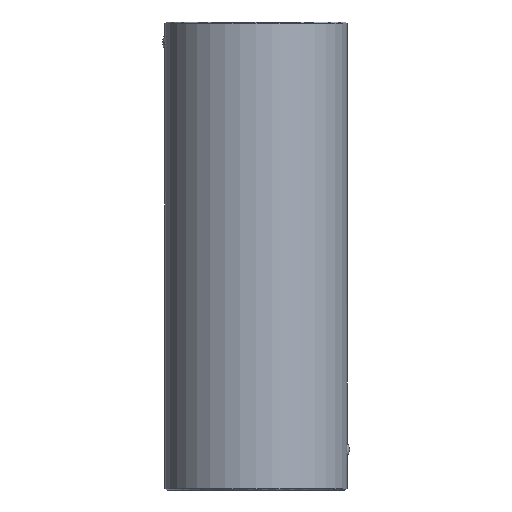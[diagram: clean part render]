
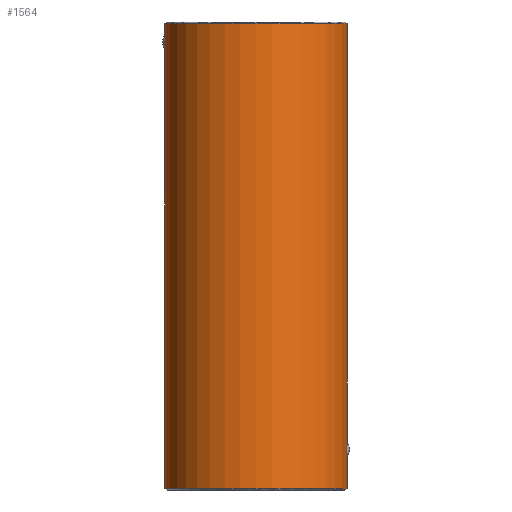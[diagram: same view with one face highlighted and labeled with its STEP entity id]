
A CAD part, front view. The second image highlights one B-rep face of the part: STEP entity #1564.
In plain terms, the highlighted cylindrical face has radius 18.5 mm (diameter 37 mm), a partial arc.
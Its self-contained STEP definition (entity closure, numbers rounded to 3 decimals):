
#1346=CARTESIAN_POINT('Vertex',(-18.5,0.,0.3)) ;
#1353=CARTESIAN_POINT('Vertex',(18.5,0.,0.3)) ;
#1356=CARTESIAN_POINT('Axis2P3D Location',(0.,0.,0.3)) ;
#1474=CARTESIAN_POINT('Axis2P3D Location',(0.,0.,95.)) ;
#1479=CARTESIAN_POINT('Line Origine',(18.5,0.,95.)) ;
#1483=CARTESIAN_POINT('Vertex',(18.5,0.,6.877)) ;
#1487=CARTESIAN_POINT('Control Point',(18.449,-1.379,8.201)) ;
#1488=CARTESIAN_POINT('Control Point',(18.449,-1.379,7.776)) ;
#1489=CARTESIAN_POINT('Control Point',(18.462,-1.201,7.352)) ;
#1490=CARTESIAN_POINT('Control Point',(18.488,-0.85,7.033)) ;
#1491=CARTESIAN_POINT('Control Point',(18.5,-0.425,6.877)) ;
#1492=CARTESIAN_POINT('Control Point',(18.5,0.,6.877)) ;
#1493=CARTESIAN_POINT('Vertex',(18.449,-1.379,8.201)) ;
#1497=CARTESIAN_POINT('Control Point',(18.5,0.,9.523)) ;
#1498=CARTESIAN_POINT('Control Point',(18.5,-0.425,9.523)) ;
#1499=CARTESIAN_POINT('Control Point',(18.488,-0.845,9.368)) ;
#1500=CARTESIAN_POINT('Control Point',(18.462,-1.201,9.052)) ;
#1501=CARTESIAN_POINT('Control Point',(18.449,-1.379,8.625)) ;
#1502=CARTESIAN_POINT('Control Point',(18.449,-1.379,8.201)) ;
#1503=CARTESIAN_POINT('Vertex',(18.5,0.,9.523)) ;
#1506=CARTESIAN_POINT('Line Origine',(18.5,0.,95.)) ;
#1510=CARTESIAN_POINT('Vertex',(18.5,0.,94.7)) ;
#1513=CARTESIAN_POINT('Axis2P3D Location',(0.,0.,94.7)) ;
#1517=CARTESIAN_POINT('Vertex',(-18.5,0.,94.7)) ;
#1520=CARTESIAN_POINT('Line Origine',(-18.5,0.,95.)) ;
#1524=CARTESIAN_POINT('Vertex',(-18.5,0.,92.223)) ;
#1528=CARTESIAN_POINT('Control Point',(-18.449,-1.379,90.899)) ;
#1529=CARTESIAN_POINT('Control Point',(-18.449,-1.379,91.324)) ;
#1530=CARTESIAN_POINT('Control Point',(-18.462,-1.201,91.748)) ;
#1531=CARTESIAN_POINT('Control Point',(-18.488,-0.85,92.067)) ;
#1532=CARTESIAN_POINT('Control Point',(-18.5,-0.425,92.223)) ;
#1533=CARTESIAN_POINT('Control Point',(-18.5,0.,92.223)) ;
#1534=CARTESIAN_POINT('Vertex',(-18.449,-1.379,90.899)) ;
#1538=CARTESIAN_POINT('Control Point',(-18.5,0.,89.577)) ;
#1539=CARTESIAN_POINT('Control Point',(-18.5,-0.425,89.577)) ;
#1540=CARTESIAN_POINT('Control Point',(-18.488,-0.845,89.732)) ;
#1541=CARTESIAN_POINT('Control Point',(-18.462,-1.201,90.048)) ;
#1542=CARTESIAN_POINT('Control Point',(-18.449,-1.379,90.475)) ;
#1543=CARTESIAN_POINT('Control Point',(-18.449,-1.379,90.899)) ;
#1544=CARTESIAN_POINT('Vertex',(-18.5,0.,89.577)) ;
#1547=CARTESIAN_POINT('Line Origine',(-18.5,0.,95.)) ;
#1357=DIRECTION('Axis2P3D Direction',(0.,-0.,1.)) ;
#1475=DIRECTION('Axis2P3D Direction',(0.,0.,-1.)) ;
#1476=DIRECTION('Axis2P3D XDirection',(1.,0.,0.)) ;
#1480=DIRECTION('Vector Direction',(0.,0.,-1.)) ;
#1507=DIRECTION('Vector Direction',(0.,0.,-1.)) ;
#1514=DIRECTION('Axis2P3D Direction',(0.,0.,-1.)) ;
#1521=DIRECTION('Vector Direction',(0.,0.,-1.)) ;
#1548=DIRECTION('Vector Direction',(0.,0.,-1.)) ;
#1358=AXIS2_PLACEMENT_3D('Circle Axis2P3D',#1356,#1357,$) ;
#1477=AXIS2_PLACEMENT_3D('Cylinder Axis2P3D',#1474,#1475,#1476) ;
#1515=AXIS2_PLACEMENT_3D('Circle Axis2P3D',#1513,#1514,$) ;
#1553=ORIENTED_EDGE('',*,*,#1485,.T.) ;
#1554=ORIENTED_EDGE('',*,*,#1495,.F.) ;
#1555=ORIENTED_EDGE('',*,*,#1505,.F.) ;
#1556=ORIENTED_EDGE('',*,*,#1512,.T.) ;
#1557=ORIENTED_EDGE('',*,*,#1519,.F.) ;
#1558=ORIENTED_EDGE('',*,*,#1526,.T.) ;
#1559=ORIENTED_EDGE('',*,*,#1536,.F.) ;
#1560=ORIENTED_EDGE('',*,*,#1546,.F.) ;
#1561=ORIENTED_EDGE('',*,*,#1551,.T.) ;
#1562=ORIENTED_EDGE('',*,*,#1360,.T.) ;
#1481=VECTOR('Line Direction',#1480,1.) ;
#1508=VECTOR('Line Direction',#1507,1.) ;
#1522=VECTOR('Line Direction',#1521,1.) ;
#1549=VECTOR('Line Direction',#1548,1.) ;
#1564=ADVANCED_FACE('730-30x95',(#1563),#1478,.T.) ;
#1486=B_SPLINE_CURVE_WITH_KNOTS('',5,(#1487,#1488,#1489,#1490,#1491,#1492),.UNSPECIFIED.,.F.,.U.,(6,6),(0.,3.013),.UNSPECIFIED.) ;
#1496=B_SPLINE_CURVE_WITH_KNOTS('',5,(#1497,#1498,#1499,#1500,#1501,#1502),.UNSPECIFIED.,.F.,.U.,(6,6),(0.,3.006),.UNSPECIFIED.) ;
#1527=B_SPLINE_CURVE_WITH_KNOTS('',5,(#1528,#1529,#1530,#1531,#1532,#1533),.UNSPECIFIED.,.F.,.U.,(6,6),(0.,3.013),.UNSPECIFIED.) ;
#1537=B_SPLINE_CURVE_WITH_KNOTS('',5,(#1538,#1539,#1540,#1541,#1542,#1543),.UNSPECIFIED.,.F.,.U.,(6,6),(0.,3.006),.UNSPECIFIED.) ;
#1359=CIRCLE('generated circle',#1358,18.5) ;
#1516=CIRCLE('generated circle',#1515,18.5) ;
#1478=CYLINDRICAL_SURFACE('generated cylinder',#1477,18.5) ;
#1360=EDGE_CURVE('',#1347,#1354,#1359,.T.) ;
#1485=EDGE_CURVE('',#1354,#1484,#1482,.F.) ;
#1495=EDGE_CURVE('',#1494,#1484,#1486,.T.) ;
#1505=EDGE_CURVE('',#1504,#1494,#1496,.T.) ;
#1512=EDGE_CURVE('',#1504,#1511,#1509,.F.) ;
#1519=EDGE_CURVE('',#1518,#1511,#1516,.F.) ;
#1526=EDGE_CURVE('',#1518,#1525,#1523,.T.) ;
#1536=EDGE_CURVE('',#1535,#1525,#1527,.T.) ;
#1546=EDGE_CURVE('',#1545,#1535,#1537,.T.) ;
#1551=EDGE_CURVE('',#1545,#1347,#1550,.T.) ;
#1552=EDGE_LOOP('',(#1553,#1554,#1555,#1556,#1557,#1558,#1559,#1560,#1561,#1562)) ;
#1563=FACE_OUTER_BOUND('',#1552,.T.) ;
#1482=LINE('Line',#1479,#1481) ;
#1509=LINE('Line',#1506,#1508) ;
#1523=LINE('Line',#1520,#1522) ;
#1550=LINE('Line',#1547,#1549) ;
#1347=VERTEX_POINT('',#1346) ;
#1354=VERTEX_POINT('',#1353) ;
#1484=VERTEX_POINT('',#1483) ;
#1494=VERTEX_POINT('',#1493) ;
#1504=VERTEX_POINT('',#1503) ;
#1511=VERTEX_POINT('',#1510) ;
#1518=VERTEX_POINT('',#1517) ;
#1525=VERTEX_POINT('',#1524) ;
#1535=VERTEX_POINT('',#1534) ;
#1545=VERTEX_POINT('',#1544) ;
